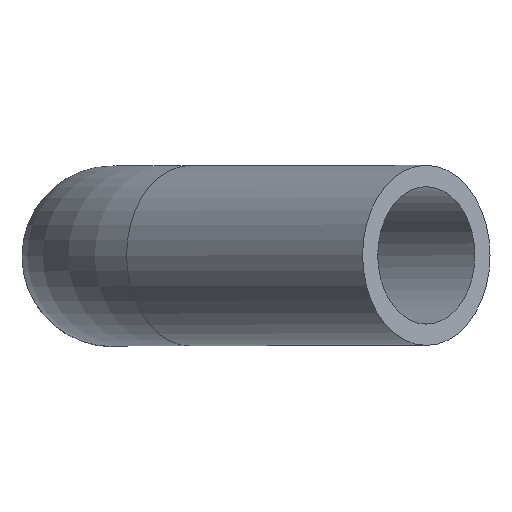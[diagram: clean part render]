
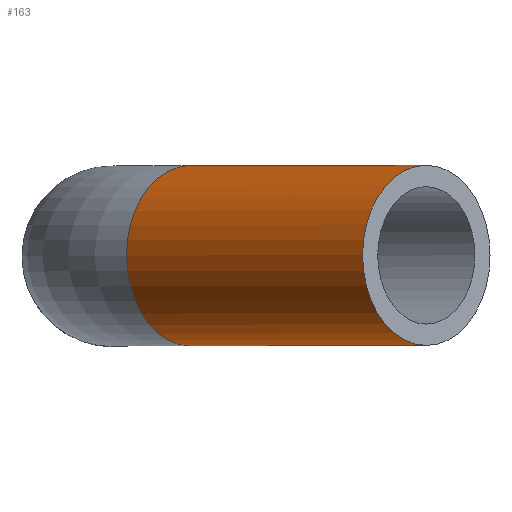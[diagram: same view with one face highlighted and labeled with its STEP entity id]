
A CAD part, top view. The second image highlights one B-rep face of the part: STEP entity #163.
In plain terms, the highlighted cylindrical face has radius 6.75 mm (diameter 13.5 mm), a full revolution.
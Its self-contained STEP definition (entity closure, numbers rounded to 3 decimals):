
#136=CARTESIAN_POINT('',(5.858,0.0,39.158));
#137=DIRECTION('',(0.707,0.0,0.707));
#138=DIRECTION('',(-0.707,0.0,0.707));
#139=AXIS2_PLACEMENT_3D('',#136,#137,#138);
#140=CYLINDRICAL_SURFACE('',#139,6.75);
#141=CARTESIAN_POINT('',(28.32,0.,52.074));
#142=VERTEX_POINT('',#141);
#143=CARTESIAN_POINT('',(23.547,0.0,56.847));
#144=DIRECTION('',(-0.707,0.0,-0.707));
#145=DIRECTION('',(-0.707,0.0,0.707));
#146=AXIS2_PLACEMENT_3D('',#143,#144,#145);
#147=CIRCLE('',#146,6.75);
#148=EDGE_CURVE('',#142,#142,#147,.T.);
#149=ORIENTED_EDGE('',*,*,#148,.T.);
#150=EDGE_LOOP('',(#149));
#151=FACE_OUTER_BOUND('',#150,.T.);
#152=CARTESIAN_POINT('',(10.631,0.,34.385));
#153=VERTEX_POINT('',#152);
#154=CARTESIAN_POINT('',(5.858,0.0,39.158));
#155=DIRECTION('',(-0.707,0.0,-0.707));
#156=DIRECTION('',(-0.707,0.0,0.707));
#157=AXIS2_PLACEMENT_3D('',#154,#155,#156);
#158=CIRCLE('',#157,6.75);
#159=EDGE_CURVE('',#153,#153,#158,.T.);
#160=ORIENTED_EDGE('',*,*,#159,.F.);
#161=EDGE_LOOP('',(#160));
#162=FACE_BOUND('',#161,.T.);
#163=ADVANCED_FACE('',(#151,#162),#140,.T.);
